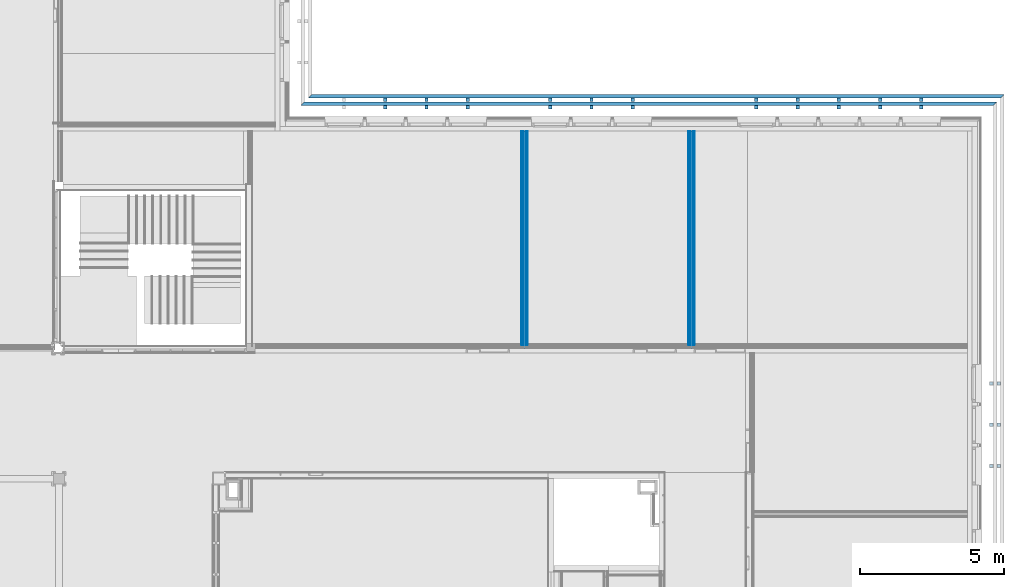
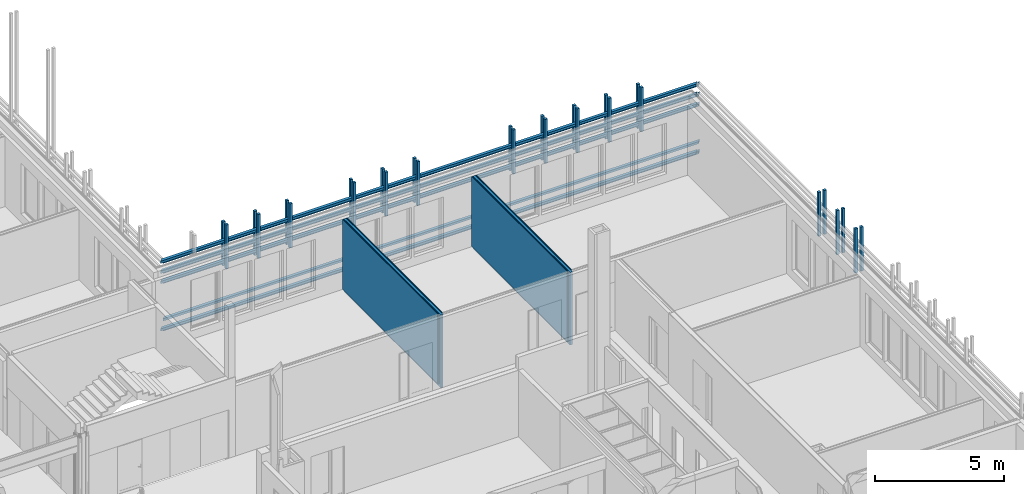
# One storey, part 123 of 139: 19 discrete accessories, 18 building element parts, 2 elements without a shape of their own.
"""IFC2X3 building model written with IfcOpenShell, lengths in millimetres."""

import ifcopenshell
import ifcopenshell.guid

model = None  # the IFC model being written
_history = None  # IfcOwnerHistory: only IFC2X3 demands one
_inside = {}  # id of a spatial element -> (the spatial element, [elements in it])
_under = {}  # id of a project, library or spatial element -> (it, [spatial elements below it])
_declared = {}  # id of a project -> (the project, [libraries it declares])
_typed = {}  # id of a type object -> (the type object, [elements of that type])
_made_of = {}  # id of a material, layer set ... -> (it, [elements and type objects made of it])


def new_model(schema):
    """Start an empty IFC model of exactly this schema.

    Asked for "IFC4X3", IfcOpenShell would pick the latest addendum, in which some entities
    have other attributes; the version numbers below select the first issue.
    IFC2X3 requires an IfcOwnerHistory on every rooted entity: one is made here for all.
    """
    global model, _history
    if schema == "IFC4X3":
        model = ifcopenshell.file(schema_version=(4, 3, 0, 0))
    else:
        model = ifcopenshell.file(schema=schema)
    _inside.clear()
    _under.clear()
    _declared.clear()
    _typed.clear()
    _made_of.clear()
    _history = None
    if model.schema == "IFC2X3":
        org = make("IfcOrganization", Name="unknown")
        user = make(
            "IfcPersonAndOrganization",
            ThePerson=make("IfcPerson", FamilyName="unknown"),
            TheOrganization=org,
        )
        app = make(
            "IfcApplication",
            ApplicationDeveloper=org,
            Version="unknown",
            ApplicationFullName="unknown",
            ApplicationIdentifier="unknown",
        )
        _history = make(
            "IfcOwnerHistory",
            OwningUser=user,
            OwningApplication=app,
            ChangeAction="ADDED",
            CreationDate=0,
        )
    return model


def make(cls, **values):
    """One entity of the class cls with the attributes given. An attribute that is None is left unset."""
    return model.create_entity(
        cls, **{name: value for name, value in values.items() if value is not None}
    )


def entity(cls, *values):
    """Any entity or typed value of the class cls, its attributes in the order of the schema. None: left unset."""
    e = model.create_entity(cls)
    for i, value in enumerate(values):
        if value is not None:
            e[i] = value
    return e


def rooted(cls, **values):
    """An entity with a GlobalId (a new one), such as an element, a storey or a relation."""
    return make(cls, GlobalId=ifcopenshell.guid.new(), OwnerHistory=_history, **values)


def si_unit(unit_type, name, prefix=None):
    """IfcSIUnit, for example si_unit("LENGTHUNIT", "METRE", prefix="MILLI")."""
    return make("IfcSIUnit", UnitType=unit_type, Prefix=prefix, Name=name)


def converted_unit(unit_type, name, factor, base, dimensions=None, offset=None):
    """IfcConversionBasedUnit, such as the inch: factor (a typed value) times the base unit."""
    return make(
        "IfcConversionBasedUnit"
        if offset is None
        else "IfcConversionBasedUnitWithOffset",
        ConversionOffset=offset,
        Dimensions=None
        if dimensions is None
        else entity("IfcDimensionalExponents", *dimensions),
        UnitType=unit_type,
        Name=name,
        ConversionFactor=make(
            "IfcMeasureWithUnit", ValueComponent=factor, UnitComponent=base
        ),
    )


def derived_unit(unit_type, elements):
    """IfcDerivedUnit: a product of units, each with its exponent."""
    return make(
        "IfcDerivedUnit",
        Elements=[
            make("IfcDerivedUnitElement", Unit=unit, Exponent=power)
            for unit, power in elements
        ],
        UnitType=unit_type,
    )


def money_unit(currency):
    """IfcMonetaryUnit."""
    return make("IfcMonetaryUnit", Currency=currency)


def assignment(units):
    """IfcUnitAssignment: the units of a project."""
    return None if units is None else make("IfcUnitAssignment", Units=units)


def point(xyz):
    """IfcCartesianPoint."""
    return None if xyz is None else make("IfcCartesianPoint", Coordinates=xyz)


def direction(xyz):
    """IfcDirection."""
    return None if xyz is None else make("IfcDirection", DirectionRatios=xyz)


def frame(location, z_axis=None, x_axis=None):
    """IfcAxis2Placement3D, a coordinate frame: its origin and axes. An axis left out is left unset."""
    return make(
        "IfcAxis2Placement3D",
        Location=point(location),
        Axis=direction(z_axis),
        RefDirection=direction(x_axis),
    )


def origin_with_axes():
    """The frame at (0, 0, 0) with the z axis (0, 0, 1) and the x axis (1, 0, 0) written out."""
    return frame((0.0, 0.0, 0.0), z_axis=(0.0, 0.0, 1.0), x_axis=(1.0, 0.0, 0.0))


def place(relative_to, where):
    """IfcLocalPlacement: puts the frame where relative to a parent placement (None: the world)."""
    return make(
        "IfcLocalPlacement", PlacementRelTo=relative_to, RelativePlacement=where
    )


def context(
    kind, dimensions, precision=None, world=None, true_north=None, identifier=None
):
    """IfcGeometricRepresentationContext, for example the 3D "Model" context."""
    return make(
        "IfcGeometricRepresentationContext",
        ContextIdentifier=identifier,
        ContextType=kind,
        CoordinateSpaceDimension=dimensions,
        Precision=precision,
        WorldCoordinateSystem=world,
        TrueNorth=true_north,
    )


def subcontext(parent, identifier, kind, view, scale=None):
    """IfcGeometricRepresentationSubContext, for example "Body" below "Model"."""
    return make(
        "IfcGeometricRepresentationSubContext",
        ContextIdentifier=identifier,
        ContextType=kind,
        ParentContext=parent,
        TargetScale=scale,
        TargetView=view,
    )


def project(units=None, contexts=None):
    """IfcProject with its units and contexts."""
    return rooted(
        "IfcProject",
        Name="project",
        RepresentationContexts=contexts,
        UnitsInContext=assignment(units),
    )


def spatial(cls, under=None, at=None, **own):
    """A site, building, storey or space (cls), placed at a placement, below another one or the project."""
    s = rooted(cls, ObjectPlacement=at, **own)
    if under is not None:
        _under.setdefault(under.id(), (under, []))[1].append(s)
    return s


def faces_of(points, faces, orient=None, outer=None):
    """IfcFace entities. A face is a list of loops; a loop is a list of indices into points, from 0.

    orient and outer hold one flag for each loop. By default every Orientation is true, the
    first loop of a face is its IfcFaceOuterBound and the others are IfcFaceBound.
    """
    made = []
    for i, loops in enumerate(faces):
        bounds = []
        for j, loop in enumerate(loops):
            is_outer = j == 0 if outer is None else outer[i][j]
            bounds.append(
                make(
                    "IfcFaceOuterBound" if is_outer else "IfcFaceBound",
                    Bound=make("IfcPolyLoop", Polygon=[points[k] for k in loop]),
                    Orientation=True if orient is None else orient[i][j],
                )
            )
        made.append(make("IfcFace", Bounds=bounds))
    return made


def faceted_brep(points, faces, orient=None, outer=None, voids=None):
    """IfcFacetedBrep: a solid bounded by flat faces; with voids (closed shells), ...WithVoids."""
    shared = [point(p) for p in points]
    hull = make("IfcClosedShell", CfsFaces=faces_of(shared, faces, orient, outer))
    if voids is None:
        return make("IfcFacetedBrep", Outer=hull)
    return make(
        "IfcFacetedBrepWithVoids",
        Outer=hull,
        Voids=[
            make(cls, CfsFaces=faces_of(shared, fs, o, b)) for cls, fs, o, b in voids
        ],
    )


def shape(context_of_items, identifier, shape_type, items):
    """IfcShapeRepresentation: the items that make up one representation, for example the "Body"."""
    return make(
        "IfcShapeRepresentation",
        ContextOfItems=context_of_items,
        RepresentationIdentifier=identifier,
        RepresentationType=shape_type,
        Items=items,
    )


def material(Name=None, Category=None):
    """IfcMaterial."""
    return make("IfcMaterial", Name=Name, Category=Category)


def material_list(materials):
    """IfcMaterialList."""
    return make("IfcMaterialList", Materials=materials)


def made_of(thing, what):
    """Note that an element or type object is made of a material, layer set ...; save() writes the relation."""
    if what is not None:
        _made_of.setdefault(what.id(), (what, []))[1].append(thing)
    return thing


def type_object(cls, material=None, **own):
    """A type object (cls), such as IfcWallType, which elements share."""
    return made_of(rooted(cls, **own), material)


def element(
    cls,
    number,
    at=None,
    inside=None,
    cuts=None,
    type_object=None,
    material=None,
    context=None,
    identifier="Body",
    shape_type=None,
    held_by="IfcProductDefinitionShape",
    body=None,
    shapes=None,
    **own,
):
    """One element of the class cls, such as IfcWall. Its Tag is "e" and its number.

    at: its placement. inside: the storey or other place that contains it. cuts: it is an
    opening in that element (IfcRelVoidsElement). A single representation is given by context,
    identifier, shape_type and body (its items); several are given by shapes. held_by: the class
    of the entity that holds the representations. save() writes the other relations.
    """
    e = rooted(cls, Tag="e%d" % number, ObjectPlacement=at, **own)
    if body is not None:
        shapes = [shape(context, identifier, shape_type, body)]
    if shapes is not None:
        e.Representation = make(held_by, Representations=shapes)
    if inside is not None:
        _inside.setdefault(inside.id(), (inside, []))[1].append(e)
    if cuts is not None:
        rooted(
            "IfcRelVoidsElement", RelatingBuildingElement=cuts, RelatedOpeningElement=e
        )
    if type_object is not None:
        _typed.setdefault(type_object.id(), (type_object, []))[1].append(e)
    return made_of(e, material)


def aggregate(whole, parts):
    """IfcRelAggregates: a whole, such as a stair, and the parts it consists of."""
    return rooted("IfcRelAggregates", RelatingObject=whole, RelatedObjects=parts)


def save(model, path):
    """Write the relations noted so far, then the file.

    IfcRelAggregates (storeys below a building ...), IfcRelContainedInSpatialStructure (elements
    in a storey), IfcRelDefinesByType, IfcRelAssociatesMaterial and IfcRelDeclares: one each for
    every whole, place, type object, material and project.
    """
    for whole, parts in _under.values():
        aggregate(whole, parts)
    for where, things in _inside.values():
        rooted(
            "IfcRelContainedInSpatialStructure",
            RelatedElements=things,
            RelatingStructure=where,
        )
    for kind, things in _typed.values():
        rooted("IfcRelDefinesByType", RelatedObjects=things, RelatingType=kind)
    for what, things in _made_of.values():
        rooted("IfcRelAssociatesMaterial", RelatedObjects=things, RelatingMaterial=what)
    for by, libraries in _declared.values():
        rooted("IfcRelDeclares", RelatingContext=by, RelatedDefinitions=libraries)
    model.write(path)


model = new_model("IFC2X3")

# Units and contexts
model_context = context("Model", 3, precision=0.01, world=origin_with_axes(), true_north=direction((0.0, 1.0)))
body_context = subcontext(model_context, "Body", "Model", "MODEL_VIEW")
ifc_project = project(units=[si_unit("LENGTHUNIT", "METRE", prefix="MILLI"), si_unit("AREAUNIT", "SQUARE_METRE"), si_unit("VOLUMEUNIT", "CUBIC_METRE"), converted_unit("PLANEANGLEUNIT", "DEGREE", entity("IfcPlaneAngleMeasure", 0.0174532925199), si_unit("PLANEANGLEUNIT", "RADIAN"), dimensions=[0, 0, 0, 0, 0, 0, 0]), money_unit("EUR"), converted_unit("TIMEUNIT", "Year", entity("IfcTimeMeasure", 31556926.0), si_unit("TIMEUNIT", "SECOND"), dimensions=[0, 0, 1, 0, 0, 0, 0]), si_unit("MASSUNIT", "GRAM", prefix="KILO"), si_unit("THERMODYNAMICTEMPERATUREUNIT", "DEGREE_CELSIUS"), si_unit("LUMINOUSINTENSITYUNIT", "LUMEN"), si_unit("ENERGYUNIT", "JOULE", prefix="MEGA"), derived_unit("THERMALCONDUCTANCEUNIT", [(si_unit("POWERUNIT", "WATT"), 1), (si_unit("LENGTHUNIT", "METRE"), -1), (si_unit("THERMODYNAMICTEMPERATUREUNIT", "KELVIN"), -1)]), derived_unit("SPECIFICHEATCAPACITYUNIT", [(si_unit("ENERGYUNIT", "JOULE"), 1), (si_unit("MASSUNIT", "GRAM", prefix="KILO"), -1), (si_unit("THERMODYNAMICTEMPERATUREUNIT", "KELVIN"), -1)]), derived_unit("MASSDENSITYUNIT", [(si_unit("MASSUNIT", "GRAM", prefix="KILO"), 1), (si_unit("VOLUMEUNIT", "CUBIC_METRE"), -1)])], contexts=[model_context])

# Site, building, storey
site_placement = place(None, origin_with_axes())
site = spatial("IfcSite", under=ifc_project, at=site_placement, Name="Kolde pst 67a", CompositionType="ELEMENT")
building_placement = place(site_placement, origin_with_axes())
building = spatial("IfcBuilding", under=site, at=building_placement, Name="Riigigümnaasium", CompositionType="ELEMENT")
storey_placement = place(building_placement, frame((0.0, 0.0, 4600.0), z_axis=(0.0, 0.0, 1.0), x_axis=(1.0, 0.0, 0.0)))
storey = spatial("IfcBuildingStorey", under=building, at=storey_placement, Name="2. korrus", CompositionType="ELEMENT", Elevation=4600.0)

# Discrete accessories
ifc_material_1 = material(Name="_VÄLISVIIMISTLUS - sõrmjätkatud puitprussid 120x115mm, liitekohad vähemärgatavad, Platowood sõrmjätkatud kuusk või samaväärne; eeltöödeldud tuletõkkevõõbaga, tuletundlikkus B-s1, d0, Woodsafe Exterior WFX™ või samaväärne; kinnitused vastavalt EK osale")
ifc_material_list = material_list([ifc_material_1, ifc_material_1])
discrete_accessory_type_1 = type_object("IfcDiscreteAccessoryType", Name="1+paiksekaitse 4 tk nihkes 2 370 x 355")
for number, where, z_axis, x_axis in (
    (1, (84805.0459476, 36804.9718852, -100.0), (0.0, 0.0, 1.0), (0.0, 1.0, 0.0)),
    (2, (84805.0459476, 36804.9718852, 2630.0), (0.0, 0.0, 1.0), (0.0, 1.0, 0.0)),
):
    element("IfcDiscreteAccessory", number, at=place(storey_placement, frame(where, z_axis=z_axis, x_axis=x_axis)), inside=storey, type_object=discrete_accessory_type_1, material=ifc_material_list, Name="Päikesevarjestus", context=body_context, shape_type="Brep", body=[
        faceted_brep([(375.0, 23625.0517576, 347.001360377), (375.0, -375.00004623, 347.001360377), (495.0, -495.000061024, 357.5), (495.0, 23505.0517576, 357.5), (375.0, 23625.0517576, 242.5), (375.0, -375.00004623, 242.5), (495.0, -495.000061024, 242.5), (495.0, 23505.0517576, 242.5)], [[[0, 1, 2, 3]], [[4, 5, 1, 0]], [[5, 6, 2, 1]], [[3, 2, 6, 7]], [[4, 0, 3, 7]], [[7, 6, 5, 4]]]),
        faceted_brep([(625.0, 23375.0517576, 107.001360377), (625.0, -625.000077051, 107.001360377), (745.0, -745.000091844, 117.5), (745.0, 23255.0517576, 117.5), (625.0, 23375.0517576, 2.5), (625.0, -625.000077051, 2.5), (745.0, -745.000091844, 2.5), (745.0, 23255.0517576, 2.5)], [[[0, 1, 2, 3]], [[4, 5, 1, 0]], [[5, 6, 2, 1]], [[3, 2, 6, 7]], [[4, 0, 3, 7]], [[7, 6, 5, 4]]]),
    ])
discrete_accessory_1_placement = place(storey_placement, frame((84805.0459476, 36804.9718852, 3110.0), z_axis=(0.0, 0.0, 1.0), x_axis=(0.0, 1.0, 0.0)))
element("IfcDiscreteAccessory", 3, at=discrete_accessory_1_placement, inside=storey, type_object=discrete_accessory_type_1, material=ifc_material_list, Name="Päikesevarjestus", context=body_context, shape_type="Brep", body=[
    faceted_brep([(495.0, 23505.0517576, 357.5), (375.0, 23625.0517576, 347.001360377), (375.0, -375.00004623, 347.001360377), (495.0, -495.000061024, 357.5), (495.0, 23505.0517576, 242.5), (375.0, 23625.0517576, 242.5), (375.0, -375.00004623, 242.5), (495.0, -495.000061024, 242.5)], [[[0, 1, 2, 3]], [[4, 5, 1, 0]], [[1, 5, 6, 2]], [[2, 6, 7, 3]], [[4, 0, 3, 7]], [[5, 4, 7, 6]]]),
    faceted_brep([(625.0, 23375.0517576, 107.001360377), (625.0, -625.000077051, 107.001360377), (745.0, -745.000091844, 117.5), (745.0, 23255.0517576, 117.5), (625.0, 23375.0517576, 2.5), (625.0, -625.000077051, 2.5), (745.0, -745.000091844, 2.5), (745.0, 23255.0517576, 2.5)], [[[0, 1, 2, 3]], [[4, 5, 1, 0]], [[5, 6, 2, 1]], [[3, 2, 6, 7]], [[4, 0, 3, 7]], [[7, 6, 5, 4]]]),
])
discrete_accessory_2_placement = place(storey_placement, frame((84805.0459476, 36804.9718852, 2150.0), z_axis=(0.0, 0.0, 1.0), x_axis=(0.0, 1.0, 0.0)))
element("IfcDiscreteAccessory", 4, at=discrete_accessory_2_placement, inside=storey, type_object=discrete_accessory_type_1, material=ifc_material_list, Name="Päikesevarjestus", context=body_context, shape_type="Brep", body=[
    faceted_brep([(375.0, 23625.0517576, 347.001360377), (375.0, -375.00004623, 347.001360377), (495.0, -495.000061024, 357.5), (495.0, 23505.0517576, 357.5), (375.0, 23625.0517576, 242.5), (375.0, -375.00004623, 242.5), (495.0, -495.000061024, 242.5), (495.0, 23505.0517576, 242.5)], [[[0, 1, 2, 3]], [[4, 5, 1, 0]], [[5, 6, 2, 1]], [[3, 2, 6, 7]], [[4, 0, 3, 7]], [[7, 6, 5, 4]]]),
    faceted_brep([(625.0, 23375.0517576, 107.001360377), (625.0, -625.000077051, 107.001360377), (745.0, -745.000091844, 117.5), (745.0, 23255.0517576, 117.5), (625.0, 23375.0517576, 2.5), (625.0, -625.000077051, 2.5), (745.0, -745.000091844, 2.5), (745.0, 23255.0517576, 2.5)], [[[0, 1, 2, 3]], [[4, 5, 1, 0]], [[5, 6, 2, 1]], [[3, 2, 6, 7]], [[4, 0, 3, 7]], [[7, 6, 5, 4]]]),
])
discrete_accessory_type_2 = type_object("IfcDiscreteAccessoryType", Name="1+paiksekaitse 3 370 x 115")
for number, where, z_axis, x_axis in (
    (5, (85772.0257564, 24735.0094603, 2150.0), (0.0, 0.0, 1.0), (-1.0, 0.0, 0.0)),
    (6, (85772.0257564, 26165.0052235, 2150.0), (0.0, 0.0, 1.0), (-1.0, 0.0, 0.0)),
    (7, (85772.0257564, 27595.0052234, 2150.0), (0.0, 0.0, 1.0), (-1.0, 0.0, 0.0)),
):
    element("IfcDiscreteAccessory", number, at=place(storey_placement, frame(where, z_axis=z_axis, x_axis=x_axis)), inside=storey, type_object=discrete_accessory_type_2, material=ifc_material_list, Name="Päikesevarjestus", context=body_context, shape_type="Brep", body=[
        faceted_brep([(467.0, 117.5, 0.0), (347.0, 117.5, 0.0), (347.0, 117.5, 2090.0), (467.0, 117.5, 2090.0), (467.0, 2.5, 0.0), (347.0, 2.5, 0.0), (347.0, 2.5, 2090.0), (467.0, 2.5, 2090.0)], [[[0, 1, 2, 3]], [[0, 4, 5, 1]], [[1, 5, 6, 2]], [[3, 2, 6, 7]], [[4, 0, 3, 7]], [[5, 4, 7, 6]]]),
        faceted_brep([(717.0, 117.5, 0.0), (597.0, 117.5, 0.0), (597.0, 117.5, 2090.0), (717.0, 117.5, 2090.0), (717.0, 2.5, 0.0), (597.0, 2.5, 0.0), (597.0, 2.5, 2090.0), (717.0, 2.5, 2090.0)], [[[0, 1, 2, 3]], [[0, 4, 5, 1]], [[1, 5, 6, 2]], [[3, 2, 6, 7]], [[4, 0, 3, 7]], [[5, 4, 7, 6]]]),
    ])
for number, where, z_axis, x_axis in (
    (8, (82625.0448559, 37771.9921115, 2150.0), (0.0, 0.0, 1.0), (0.0, -1.0, 0.0)),
    (9, (81195.044847, 37771.9921115, 2150.0), (0.0, 0.0, 1.0), (0.0, -1.0, 0.0)),
    (10, (79765.044847, 37771.9921115, 2150.0), (0.0, 0.0, 1.0), (0.0, -1.0, 0.0)),
    (11, (78335.044847, 37771.9921115, 2150.0), (0.0, 0.0, 1.0), (0.0, -1.0, 0.0)),
    (12, (76905.044847, 37771.9921115, 2150.0), (0.0, 0.0, 1.0), (0.0, -1.0, 0.0)),
    (13, (72615.0448307, 37771.9921115, 2150.0), (0.0, 0.0, 1.0), (0.0, -1.0, 0.0)),
    (14, (71185.0448307, 37771.9921115, 2150.0), (0.0, 0.0, 1.0), (0.0, -1.0, 0.0)),
    (15, (69755.0448307, 37771.9921115, 2150.0), (0.0, 0.0, 1.0), (0.0, -1.0, 0.0)),
    (16, (66895.0448221, 37771.9921115, 2150.0), (0.0, 0.0, 1.0), (0.0, -1.0, 0.0)),
    (17, (65465.0448221, 37771.9921115, 2150.0), (0.0, 0.0, 1.0), (0.0, -1.0, 0.0)),
    (18, (64035.0448221, 37771.9921115, 2150.0), (0.0, 0.0, 1.0), (0.0, -1.0, 0.0)),
):
    element("IfcDiscreteAccessory", number, at=place(storey_placement, frame(where, z_axis=z_axis, x_axis=x_axis)), inside=storey, type_object=discrete_accessory_type_2, material=ifc_material_list, Name="Päikesevarjestus", context=body_context, shape_type="Brep", body=[
        faceted_brep([(467.0, 117.5, 0.0), (347.0, 117.5, 0.0), (347.0, 117.5, 2090.0), (467.0, 117.5, 2090.0), (467.0, 2.49999999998, 0.0), (347.0, 2.5, 0.0), (347.0, 2.5, 2090.0), (467.0, 2.49999999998, 2090.0)], [[[0, 1, 2, 3]], [[0, 4, 5, 1]], [[1, 5, 6, 2]], [[3, 2, 6, 7]], [[4, 0, 3, 7]], [[5, 4, 7, 6]]]),
        faceted_brep([(717.0, 117.5, 0.0), (597.0, 117.5, 0.0), (597.0, 117.5, 2090.0), (717.0, 117.5, 2090.0), (717.0, 2.5, 0.0), (597.0, 2.5, 0.0), (597.0, 2.5, 2090.0), (717.0, 2.5, 2090.0)], [[[0, 1, 2, 3]], [[0, 4, 5, 1]], [[1, 5, 6, 2]], [[3, 2, 6, 7]], [[4, 0, 3, 7]], [[5, 4, 7, 6]]]),
    ])
discrete_accessory_type_3 = type_object("IfcDiscreteAccessoryType", Name="1+paiksekaitse 4 tk nihkes 1 120 x 115")
discrete_accessory_3_placement = place(storey_placement, frame((84805.0459476, 36804.9718852, 380.0), z_axis=(0.0, 0.0, 1.0), x_axis=(0.0, 1.0, 0.0)))
element("IfcDiscreteAccessory", 19, at=discrete_accessory_3_placement, inside=storey, type_object=discrete_accessory_type_3, material=ifc_material_1, Name="Päikesevarjestus", context=body_context, shape_type="Brep", body=[
    faceted_brep([(745.0, 23255.0517576, 117.5), (625.0, 23375.0517576, 107.001360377), (625.0, -625.000077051, 107.001360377), (745.0, -745.000091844, 117.5), (745.0, 23255.0517576, 2.5), (625.0, 23375.0517576, 2.5), (625.0, -625.000077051, 2.5), (745.0, -745.000091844, 2.5)], [[[0, 1, 2, 3]], [[4, 5, 1, 0]], [[1, 5, 6, 2]], [[2, 6, 7, 3]], [[4, 0, 3, 7]], [[5, 4, 7, 6]]]),
])

# Wall, building element parts
wall_type = type_object("IfcWallType", Name="SS-PK-10/4_vill100+2värv distantsliistudega 220", PredefinedType="NOTDEFINED")
wall_1_placement = place(storey_placement, frame((68814.9983825, 36439.9996998, -130.0), z_axis=(0.0, 0.0, 1.0), x_axis=(0.0, -1.0, 0.0)))
wall_1 = element("IfcWall", 20, at=wall_1_placement, inside=storey, type_object=wall_type, Name="Sisesein")
ifc_material_2 = material(Name="_VIIMISTLUSKIHT - viimistlus vastavalt SA osale")
building_element_part_1_placement = place(wall_1_placement, origin_with_axes())
building_element_part_1 = element("IfcBuildingElementPart", 21, at=building_element_part_1_placement, material=ifc_material_2, Name="_VIIMISTLUSKIHT - viimistlus vastavalt SA osale", context=body_context, shape_type="Brep", body=[
    faceted_brep([(160.0, 215.0, 3450.0), (160.0, 220.0, 3450.0), (160.0, 220.0, 130.0), (160.0, 215.0, 130.0), (7550.0, 220.0, 3450.0), (7550.0, 215.0, 3450.0), (7550.0, 220.0, 130.0), (7550.0, 215.0, 130.0)], [[[0, 1, 2, 3]], [[4, 1, 0, 5]], [[1, 4, 6, 2]], [[3, 2, 6, 7]], [[5, 0, 3, 7]], [[4, 5, 7, 6]]]),
])
ifc_material_3 = material(Name="_PLAATMATERJAL - tuletõkkekipsplaat, Knauf Red GKF või samaväärne")
building_element_part_2_placement = place(wall_1_placement, origin_with_axes())
building_element_part_2 = element("IfcBuildingElementPart", 22, at=building_element_part_2_placement, material=ifc_material_3, Name="_PLAATMATERJAL - tuletõkkekipsplaat, Knauf Red GKF või samaväärne", context=body_context, shape_type="Brep", body=[
    faceted_brep([(160.0, 200.0, 3450.0), (160.0, 215.0, 3450.0), (160.0, 215.0, 127.0), (160.0, 200.0, 127.0), (7560.0, 215.0, 3450.0), (7560.0, 200.0, 3450.0), (7560.0, 215.0, 127.0), (7560.0, 200.0, 127.0)], [[[0, 1, 2, 3]], [[4, 1, 0, 5]], [[1, 4, 6, 2]], [[3, 2, 6, 7]], [[5, 0, 3, 7]], [[4, 5, 7, 6]]]),
])
ifc_material_4 = material(Name="_PLAATMATERJAL - OSB3 plaat")
building_element_part_3_placement = place(wall_1_placement, origin_with_axes())
building_element_part_3 = element("IfcBuildingElementPart", 23, at=building_element_part_3_placement, material=ifc_material_4, Name="_PLAATMATERJAL - OSB3 plaat", context=body_context, shape_type="Brep", body=[
    faceted_brep([(160.0, 185.0, 3450.0), (160.0, 200.0, 3450.0), (160.0, 200.0, 127.0), (160.0, 185.0, 127.0), (7575.0, 200.0, 3450.0), (7575.0, 185.0, 3450.0), (7575.0, 200.0, 127.0), (7575.0, 185.0, 127.0)], [[[0, 1, 2, 3]], [[4, 1, 0, 5]], [[1, 4, 6, 2]], [[3, 2, 6, 7]], [[5, 0, 3, 7]], [[4, 5, 7, 6]]]),
])
ifc_material_5 = material(Name="_KARKASS- distantasliist")
building_element_part_4_placement = place(wall_1_placement, origin_with_axes())
building_element_part_4 = element("IfcBuildingElementPart", 24, at=building_element_part_4_placement, material=ifc_material_5, Name="_KARKASS- distantasliist", context=body_context, shape_type="Brep", body=[
    faceted_brep([(160.0, 160.0, 3450.0), (160.0, 185.0, 3450.0), (160.0, 185.0, 127.0), (160.0, 160.0, 127.0), (7575.0, 185.0, 3450.0), (7575.0, 160.0, 3450.0), (7575.0, 185.0, 127.0), (7575.0, 160.0, 127.0)], [[[0, 1, 2, 3]], [[4, 1, 0, 5]], [[1, 4, 6, 2]], [[3, 2, 6, 7]], [[5, 0, 3, 7]], [[4, 5, 7, 6]]]),
])
ifc_material_6 = material(Name="_KARKASS - puitpruss 100x50mm vertikaalne, samm 600mm, vahel mineraalvill, helineeldetegur αw = 1.0, ISOVER ACOUSTIC 100mm või samaväärne")
building_element_part_5_placement = place(wall_1_placement, origin_with_axes())
building_element_part_5 = element("IfcBuildingElementPart", 25, at=building_element_part_5_placement, material=ifc_material_6, Name="_KARKASS - puitpruss 100x50mm vertikaalne, samm 600mm, vahel mineraalvill, helineeldetegur αw = 1.0, ISOVER ACOUSTIC 100mm või samaväärne", context=body_context, shape_type="Brep", body=[
    faceted_brep([(160.0, 60.0, 3450.0), (160.0, 160.0, 3450.0), (160.0, 160.0, 0.0), (160.0, 60.0, 0.0), (7690.0, 160.0, 3450.0), (7690.0, 60.0, 3450.0), (7690.0, 160.0, 0.0), (7690.0, 60.0, 0.0)], [[[0, 1, 2, 3]], [[4, 1, 0, 5]], [[1, 4, 6, 2]], [[6, 7, 3, 2]], [[5, 0, 3, 7]], [[4, 5, 7, 6]]]),
])
building_element_part_6_placement = place(wall_1_placement, origin_with_axes())
building_element_part_6 = element("IfcBuildingElementPart", 26, at=building_element_part_6_placement, material=ifc_material_5, Name="_KARKASS- distantasliist", context=body_context, shape_type="Brep", body=[
    faceted_brep([(160.0, 35.0, 3450.0), (160.0, 60.0, 3450.0), (160.0, 60.0, 127.0), (160.0, 35.0, 127.0), (7575.0, 60.0, 3450.0), (7575.0, 35.0, 3450.0), (7575.0, 60.0, 127.0), (7575.0, 35.0, 127.0)], [[[0, 1, 2, 3]], [[4, 1, 0, 5]], [[1, 4, 6, 2]], [[3, 2, 6, 7]], [[5, 0, 3, 7]], [[4, 5, 7, 6]]]),
])
building_element_part_7_placement = place(wall_1_placement, origin_with_axes())
building_element_part_7 = element("IfcBuildingElementPart", 27, at=building_element_part_7_placement, material=ifc_material_4, Name="_PLAATMATERJAL - OSB3 plaat", context=body_context, shape_type="Brep", body=[
    faceted_brep([(160.0, 20.0, 3450.0), (160.0, 35.0, 3450.0), (160.0, 35.0, 127.0), (160.0, 20.0, 127.0), (7575.0, 35.0, 3450.0), (7575.0, 20.0, 3450.0), (7575.0, 35.0, 127.0), (7575.0, 20.0, 127.0)], [[[0, 1, 2, 3]], [[4, 1, 0, 5]], [[1, 4, 6, 2]], [[3, 2, 6, 7]], [[5, 0, 3, 7]], [[4, 5, 7, 6]]]),
])
building_element_part_8_placement = place(wall_1_placement, origin_with_axes())
building_element_part_8 = element("IfcBuildingElementPart", 28, at=building_element_part_8_placement, material=ifc_material_3, Name="_PLAATMATERJAL - tuletõkkekipsplaat, Knauf Red GKF või samaväärne", context=body_context, shape_type="Brep", body=[
    faceted_brep([(160.0, 5.0, 3450.0), (160.0, 20.0, 3450.0), (160.0, 20.0, 127.0), (160.0, 5.0, 127.0), (7560.0, 20.0, 3450.0), (7560.0, 5.0, 3450.0), (7560.0, 20.0, 127.0), (7560.0, 5.0, 127.0)], [[[0, 1, 2, 3]], [[4, 1, 0, 5]], [[1, 4, 6, 2]], [[3, 2, 6, 7]], [[5, 0, 3, 7]], [[4, 5, 7, 6]]]),
])
building_element_part_9_placement = place(wall_1_placement, origin_with_axes())
building_element_part_9 = element("IfcBuildingElementPart", 29, at=building_element_part_9_placement, material=ifc_material_2, Name="_VIIMISTLUSKIHT - viimistlus vastavalt SA osale", context=body_context, shape_type="Brep", body=[
    faceted_brep([(160.0, 0.0, 3450.0), (160.0, 5.0, 3450.0), (160.0, 5.0, 130.0), (160.0, 0.0, 130.0), (7550.0, 5.0, 3450.0), (7550.0, 0.0, 3450.0), (7550.0, 5.0, 130.0), (7550.0, 0.0, 130.0)], [[[0, 1, 2, 3]], [[4, 1, 0, 5]], [[1, 4, 6, 2]], [[3, 2, 6, 7]], [[5, 0, 3, 7]], [[4, 5, 7, 6]]]),
])
aggregate(wall_1, [building_element_part_1, building_element_part_2, building_element_part_3, building_element_part_4, building_element_part_5, building_element_part_6, building_element_part_7, building_element_part_8, building_element_part_9])

wall_2_placement = place(storey_placement, frame((74605.0460297, 28589.9996998, -130.0), z_axis=(0.0, 0.0, 1.0), x_axis=(0.0, 1.0, 0.0)))
wall_2 = element("IfcWall", 30, at=wall_2_placement, inside=storey, type_object=wall_type, Name="Sisesein")
building_element_part_10_placement = place(wall_2_placement, origin_with_axes())
building_element_part_10 = element("IfcBuildingElementPart", 31, at=building_element_part_10_placement, material=ifc_material_2, Name="_VIIMISTLUSKIHT - viimistlus vastavalt SA osale", context=body_context, shape_type="Brep", body=[
    faceted_brep([(7690.0, 0.0, 3450.0), (7690.0, -5.0, 3450.0), (7690.0, -5.0, 130.0), (7690.0, 0.0, 130.0), (300.0, -5.0, 3450.0), (300.0, 0.0, 3450.0), (300.0, -5.0, 130.0), (300.0, 0.0, 130.0)], [[[0, 1, 2, 3]], [[4, 1, 0, 5]], [[1, 4, 6, 2]], [[3, 2, 6, 7]], [[5, 0, 3, 7]], [[4, 5, 7, 6]]]),
])
building_element_part_11_placement = place(wall_2_placement, origin_with_axes())
building_element_part_11 = element("IfcBuildingElementPart", 32, at=building_element_part_11_placement, material=ifc_material_3, Name="_PLAATMATERJAL - tuletõkkekipsplaat, Knauf Red GKF või samaväärne", context=body_context, shape_type="Brep", body=[
    faceted_brep([(7690.0, -5.0, 3450.0), (7690.0, -20.0, 3450.0), (7690.0, -20.0, 127.0), (7690.0, -5.0, 127.0), (290.0, -20.0, 3450.0), (290.0, -5.0, 3450.0), (290.0, -20.0, 127.0), (290.0, -5.0, 127.0)], [[[0, 1, 2, 3]], [[4, 1, 0, 5]], [[1, 4, 6, 2]], [[3, 2, 6, 7]], [[5, 0, 3, 7]], [[4, 5, 7, 6]]]),
])
building_element_part_12_placement = place(wall_2_placement, origin_with_axes())
building_element_part_12 = element("IfcBuildingElementPart", 33, at=building_element_part_12_placement, material=ifc_material_4, Name="_PLAATMATERJAL - OSB3 plaat", context=body_context, shape_type="Brep", body=[
    faceted_brep([(7690.0, -20.0, 3450.0), (7690.0, -35.0, 3450.0), (7690.0, -35.0, 127.0), (7690.0, -20.0, 127.0), (275.0, -35.0, 3450.0), (275.0, -20.0, 3450.0), (275.0, -35.0, 127.0), (275.0, -20.0, 127.0)], [[[0, 1, 2, 3]], [[4, 1, 0, 5]], [[1, 4, 6, 2]], [[3, 2, 6, 7]], [[5, 0, 3, 7]], [[4, 5, 7, 6]]]),
])
building_element_part_13_placement = place(wall_2_placement, origin_with_axes())
building_element_part_13 = element("IfcBuildingElementPart", 34, at=building_element_part_13_placement, material=ifc_material_5, Name="_KARKASS- distantasliist", context=body_context, shape_type="Brep", body=[
    faceted_brep([(7690.0, -35.0, 3450.0), (7690.0, -60.0, 3450.0), (7690.0, -60.0, 127.0), (7690.0, -35.0, 127.0), (275.0, -60.0, 3450.0), (275.0, -35.0, 3450.0), (275.0, -60.0, 127.0), (275.0, -35.0, 127.0)], [[[0, 1, 2, 3]], [[4, 1, 0, 5]], [[1, 4, 6, 2]], [[3, 2, 6, 7]], [[5, 0, 3, 7]], [[4, 5, 7, 6]]]),
])
building_element_part_14_placement = place(wall_2_placement, origin_with_axes())
building_element_part_14 = element("IfcBuildingElementPart", 35, at=building_element_part_14_placement, material=ifc_material_6, Name="_KARKASS - puitpruss 100x50mm vertikaalne, samm 600mm, vahel mineraalvill, helineeldetegur αw = 1.0, ISOVER ACOUSTIC 100mm või samaväärne", context=body_context, shape_type="Brep", body=[
    faceted_brep([(7690.0, -60.0, 3450.0), (7690.0, -160.0, 3450.0), (7690.0, -160.0, 0.0), (7690.0, -60.0, 0.0), (160.0, -160.0, 3450.0), (160.0, -60.0, 3450.0), (160.0, -160.0, 0.0), (160.0, -60.0, 0.0)], [[[0, 1, 2, 3]], [[4, 1, 0, 5]], [[1, 4, 6, 2]], [[3, 2, 6, 7]], [[5, 0, 3, 7]], [[4, 5, 7, 6]]]),
])
building_element_part_15_placement = place(wall_2_placement, origin_with_axes())
building_element_part_15 = element("IfcBuildingElementPart", 36, at=building_element_part_15_placement, material=ifc_material_5, Name="_KARKASS- distantasliist", context=body_context, shape_type="Brep", body=[
    faceted_brep([(7690.0, -160.0, 3450.0), (7690.0, -185.0, 3450.0), (7690.0, -185.0, 127.0), (7690.0, -160.0, 127.0), (275.0, -185.0, 3450.0), (275.0, -160.0, 3450.0), (275.0, -185.0, 127.0), (275.0, -160.0, 127.0)], [[[0, 1, 2, 3]], [[4, 1, 0, 5]], [[1, 4, 6, 2]], [[3, 2, 6, 7]], [[5, 0, 3, 7]], [[4, 5, 7, 6]]]),
])
building_element_part_16_placement = place(wall_2_placement, origin_with_axes())
building_element_part_16 = element("IfcBuildingElementPart", 37, at=building_element_part_16_placement, material=ifc_material_4, Name="_PLAATMATERJAL - OSB3 plaat", context=body_context, shape_type="Brep", body=[
    faceted_brep([(7690.0, -185.0, 3450.0), (7690.0, -200.0, 3450.0), (7690.0, -200.0, 127.0), (7690.0, -185.0, 127.0), (275.0, -200.0, 3450.0), (275.0, -185.0, 3450.0), (275.0, -200.0, 127.0), (275.0, -185.0, 127.0)], [[[0, 1, 2, 3]], [[4, 1, 0, 5]], [[1, 4, 6, 2]], [[3, 2, 6, 7]], [[5, 0, 3, 7]], [[4, 5, 7, 6]]]),
])
building_element_part_17_placement = place(wall_2_placement, origin_with_axes())
building_element_part_17 = element("IfcBuildingElementPart", 38, at=building_element_part_17_placement, material=ifc_material_3, Name="_PLAATMATERJAL - tuletõkkekipsplaat, Knauf Red GKF või samaväärne", context=body_context, shape_type="Brep", body=[
    faceted_brep([(300.000023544, -215.0, 130.0), (290.0, -215.0, 130.0), (290.0, -215.0, 127.0), (7690.0, -215.0, 127.0), (7690.0, -215.0, 3450.0), (290.0, -215.0, 3450.0), (290.0, -215.0, 2430.0), (300.000023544, -215.0, 2430.0), (300.000023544, -204.955759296, 130.0), (290.0, -204.955759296, 130.0), (290.0, -204.955759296, 2430.0), (290.0, -200.0, 3450.0), (290.0, -200.0, 127.0), (7690.0, -200.0, 127.0), (7690.0, -200.0, 3450.0), (300.000023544, -204.955759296, 2430.0)], [[[0, 1, 2, 3, 4, 5, 6, 7]], [[1, 0, 8, 9]], [[10, 6, 5, 11, 12, 2, 1, 9]], [[12, 13, 3, 2]], [[13, 14, 4, 3]], [[11, 5, 4, 14]], [[7, 6, 10, 15]], [[0, 7, 15, 8]], [[10, 9, 8, 15]], [[12, 11, 14, 13]]]),
])
building_element_part_18_placement = place(wall_2_placement, origin_with_axes())
building_element_part_18 = element("IfcBuildingElementPart", 39, at=building_element_part_18_placement, material=ifc_material_2, Name="_VIIMISTLUSKIHT - viimistlus vastavalt SA osale", context=body_context, shape_type="Brep", body=[
    faceted_brep([(7690.0, -215.0, 130.0), (7690.0, -215.0, 3450.0), (7690.0, -220.0, 3450.0), (7690.0, -220.0, 130.0), (300.0, -215.0, 130.0), (300.0, -215.0, 3450.0), (300.0, -220.0, 3450.0), (300.0, -220.0, 130.0)], [[[0, 1, 2, 3]], [[4, 5, 1, 0]], [[5, 6, 2, 1]], [[3, 2, 6, 7]], [[4, 0, 3, 7]], [[7, 6, 5, 4]]]),
])
aggregate(wall_2, [building_element_part_10, building_element_part_11, building_element_part_12, building_element_part_13, building_element_part_14, building_element_part_15, building_element_part_16, building_element_part_17, building_element_part_18])

save(model, "model.ifc")
